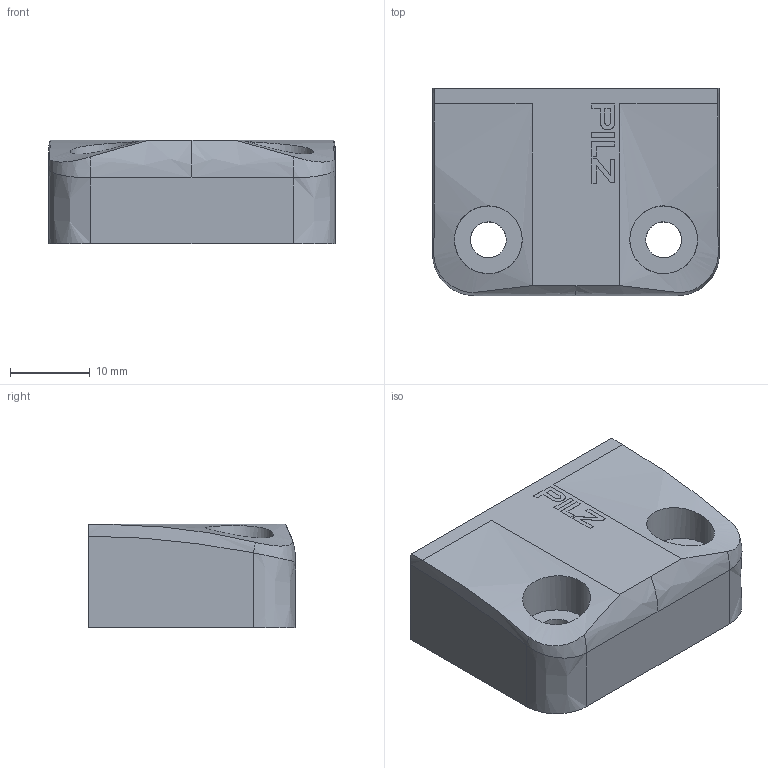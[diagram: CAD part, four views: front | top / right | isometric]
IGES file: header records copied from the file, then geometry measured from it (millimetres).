
Global section: file name: 2009757_B_PSEN_X_1_actuator; native system: Autodesk Inventor 2017; preprocessor: unknown; author: prim; date: 20180221.090507; units: millimetre
Bounding box: 36 x 26 x 13.01 mm (x, y, z)
Volume: 10695.9 mm3; surface area: 3725 mm2
Topology: 1 solids, 1 shells, 73 faces, 204 edges, 142 vertices
Faces by surface type: bspline 73
